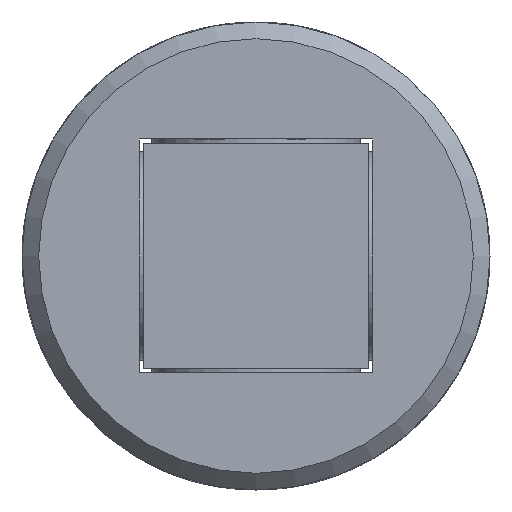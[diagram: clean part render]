
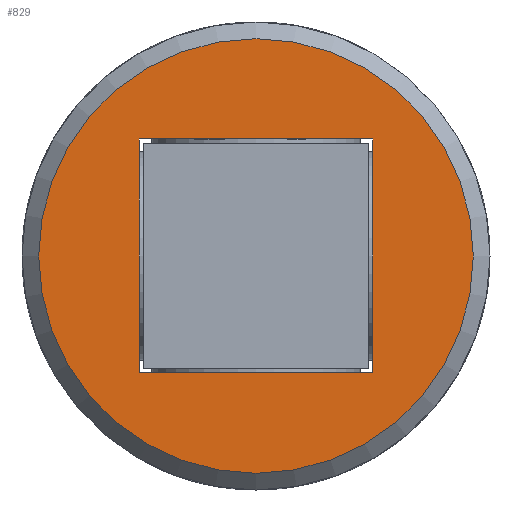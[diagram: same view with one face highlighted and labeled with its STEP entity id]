
A CAD part, front view. The second image highlights one B-rep face of the part: STEP entity #829.
In plain terms, the highlighted planar face has unit normal (0, -1, 0).
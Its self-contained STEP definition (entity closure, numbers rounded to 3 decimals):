
#92=LINE('',#1239,#132);
#96=LINE('',#1264,#136);
#102=LINE('',#1306,#142);
#105=LINE('',#1328,#145);
#132=VECTOR('',#1016,14.);
#136=VECTOR('',#1024,14.);
#142=VECTOR('',#1032,14.);
#145=VECTOR('',#1039,14.);
#172=PLANE('',#903);
#197=FACE_BOUND('',#297,.T.);
#232=FACE_OUTER_BOUND('',#296,.T.);
#296=EDGE_LOOP('',(#671));
#297=EDGE_LOOP('',(#672,#673,#674,#675));
#346=CIRCLE('',#901,13.);
#384=VERTEX_POINT('',#1236);
#385=VERTEX_POINT('',#1238);
#391=VERTEX_POINT('',#1263);
#400=VERTEX_POINT('',#1304);
#407=VERTEX_POINT('',#1371);
#471=EDGE_CURVE('',#385,#384,#92,.T.);
#478=EDGE_CURVE('',#391,#385,#96,.T.);
#488=EDGE_CURVE('',#384,#400,#102,.T.);
#494=EDGE_CURVE('',#400,#391,#105,.T.);
#505=EDGE_CURVE('',#407,#407,#346,.T.);
#671=ORIENTED_EDGE('',*,*,#505,.F.);
#672=ORIENTED_EDGE('',*,*,#471,.T.);
#673=ORIENTED_EDGE('',*,*,#488,.T.);
#674=ORIENTED_EDGE('',*,*,#494,.T.);
#675=ORIENTED_EDGE('',*,*,#478,.T.);
#829=ADVANCED_FACE('',(#232,#197),#172,.F.);
#901=AXIS2_PLACEMENT_3D('',#1372,#1068,#1069);
#903=AXIS2_PLACEMENT_3D('',#1548,#1076,#1077);
#1016=DIRECTION('',(0.,0.,-1.));
#1024=DIRECTION('',(1.,0.,0.));
#1032=DIRECTION('',(-1.,0.,0.));
#1039=DIRECTION('',(0.,0.,1.));
#1068=DIRECTION('center_axis',(0.,1.,0.));
#1069=DIRECTION('ref_axis',(1.,0.,0.));
#1076=DIRECTION('center_axis',(0.,1.,0.));
#1077=DIRECTION('ref_axis',(0.,0.,1.));
#1236=CARTESIAN_POINT('',(7.,-36.5,-7.));
#1238=CARTESIAN_POINT('',(7.,-36.5,7.));
#1239=CARTESIAN_POINT('',(7.,-36.5,3.5));
#1263=CARTESIAN_POINT('',(-7.,-36.5,7.));
#1264=CARTESIAN_POINT('',(-3.5,-36.5,7.));
#1304=CARTESIAN_POINT('',(-7.,-36.5,-7.));
#1306=CARTESIAN_POINT('',(3.5,-36.5,-7.));
#1328=CARTESIAN_POINT('',(-7.,-36.5,-3.5));
#1371=CARTESIAN_POINT('',(-13.,-36.5,0.));
#1372=CARTESIAN_POINT('Origin',(0.,-36.5,0.));
#1548=CARTESIAN_POINT('Origin',(0.,-36.5,0.));
